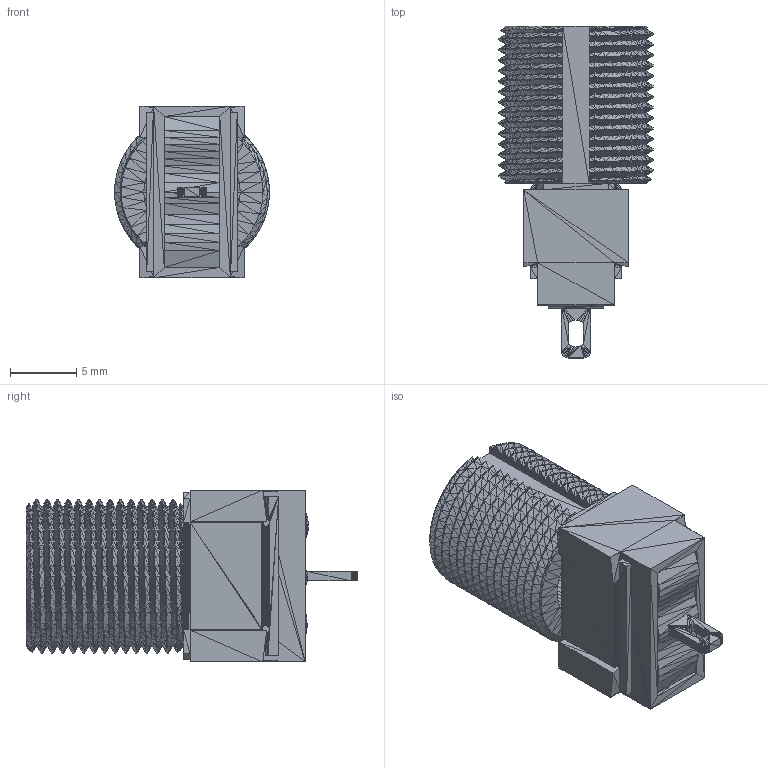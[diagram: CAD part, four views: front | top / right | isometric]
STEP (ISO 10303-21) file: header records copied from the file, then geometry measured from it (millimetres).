
FILE_DESCRIPTION(/* description */ (''),/* implementation_level */ '2;1');
FILE_NAME(/* name */ 'MTG 106 G.stp',/* time_stamp */ '2021-9-3T16:51:17.8842117',/* author */ ('knitter-switch'),/* organization */ (''),/* preprocessor_version */ 'InStep v2',/* originating_system */ 'InStep V2.3',/* authorisation */ '');
FILE_SCHEMA (('AUTOMOTIVE_DESIGN { 1 0 10303 214 1 1 1 1 }'));
Length unit declared in the file: centimetre
Products named in the file (1): None
Bounding box: 11.72 x 25.1 x 13 mm (x, y, z)
Volume: 1069.2 mm3; surface area: 2568.7 mm2
Topology: 7 solids, 10 shells, 8711 faces, 13106 edges, 4398 vertices
Faces by surface type: plane 8711
Entity records: 169000 total; most frequent: ORIENTED_EDGE 34894, DIRECTION 20423, LINE 17447, EDGE_CURVE 17447, AXIS2_PLACEMENT_3D 11678, EDGE_LOOP 11677, FACE_OUTER_BOUND 11677, PLANE 11677
